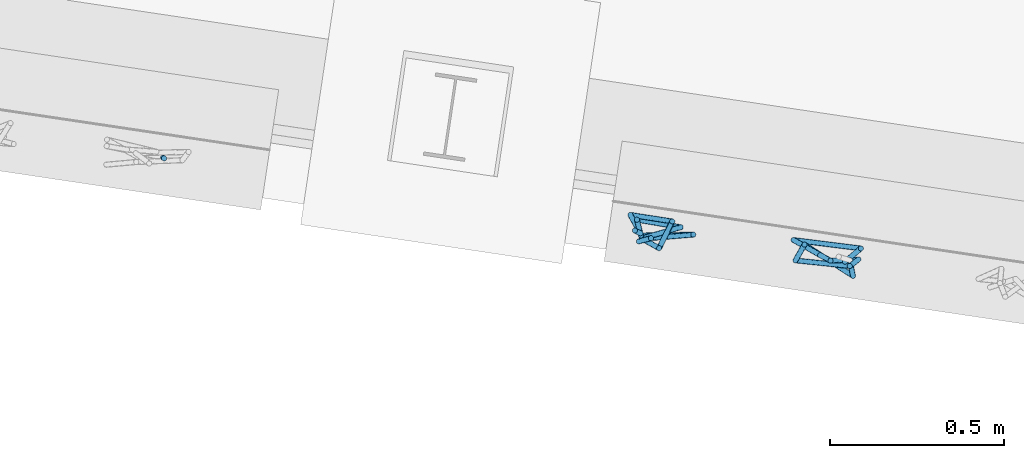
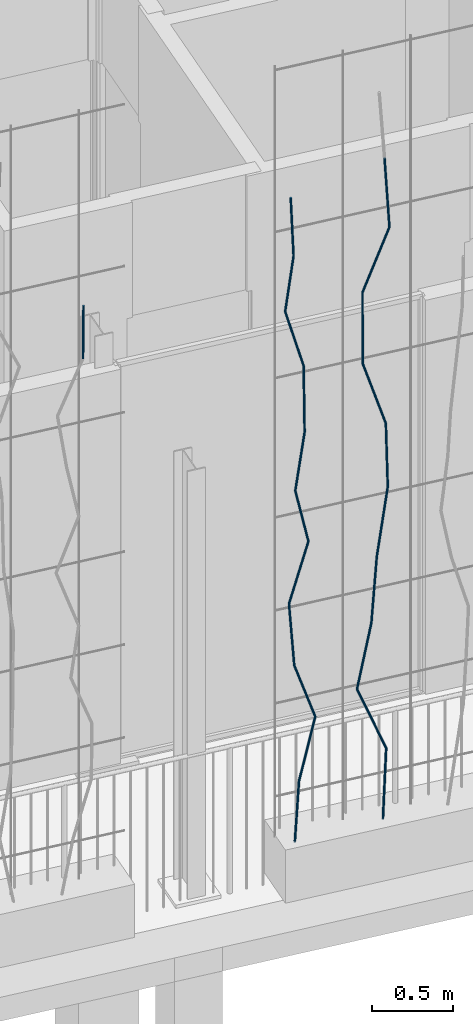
# One storey, part 118 of 143: 22 members, 1 element without a shape of its own.
"""IFC4 building model written with IfcOpenShell, lengths in metres."""

import ifcopenshell
import ifcopenshell.guid

model = None  # the IFC model being written
_history = None  # IfcOwnerHistory: only IFC2X3 demands one
_inside = {}  # id of a spatial element -> (the spatial element, [elements in it])
_under = {}  # id of a project, library or spatial element -> (it, [spatial elements below it])
_declared = {}  # id of a project -> (the project, [libraries it declares])
_typed = {}  # id of a type object -> (the type object, [elements of that type])
_made_of = {}  # id of a material, layer set ... -> (it, [elements and type objects made of it])


def new_model(schema):
    """Start an empty IFC model of exactly this schema.

    Asked for "IFC4X3", IfcOpenShell would pick the latest addendum, in which some entities
    have other attributes; the version numbers below select the first issue.
    IFC2X3 requires an IfcOwnerHistory on every rooted entity: one is made here for all.
    """
    global model, _history
    if schema == "IFC4X3":
        model = ifcopenshell.file(schema_version=(4, 3, 0, 0))
    else:
        model = ifcopenshell.file(schema=schema)
    _inside.clear()
    _under.clear()
    _declared.clear()
    _typed.clear()
    _made_of.clear()
    _history = None
    if model.schema == "IFC2X3":
        org = make("IfcOrganization", Name="unknown")
        user = make(
            "IfcPersonAndOrganization",
            ThePerson=make("IfcPerson", FamilyName="unknown"),
            TheOrganization=org,
        )
        app = make(
            "IfcApplication",
            ApplicationDeveloper=org,
            Version="unknown",
            ApplicationFullName="unknown",
            ApplicationIdentifier="unknown",
        )
        _history = make(
            "IfcOwnerHistory",
            OwningUser=user,
            OwningApplication=app,
            ChangeAction="ADDED",
            CreationDate=0,
        )
    return model


def make(cls, **values):
    """One entity of the class cls with the attributes given. An attribute that is None is left unset."""
    return model.create_entity(
        cls, **{name: value for name, value in values.items() if value is not None}
    )


def rooted(cls, **values):
    """An entity with a GlobalId (a new one), such as an element, a storey or a relation."""
    return make(cls, GlobalId=ifcopenshell.guid.new(), OwnerHistory=_history, **values)


def si_unit(unit_type, name, prefix=None):
    """IfcSIUnit, for example si_unit("LENGTHUNIT", "METRE", prefix="MILLI")."""
    return make("IfcSIUnit", UnitType=unit_type, Prefix=prefix, Name=name)


def assignment(units):
    """IfcUnitAssignment: the units of a project."""
    return None if units is None else make("IfcUnitAssignment", Units=units)


def point(xyz):
    """IfcCartesianPoint."""
    return None if xyz is None else make("IfcCartesianPoint", Coordinates=xyz)


def direction(xyz):
    """IfcDirection."""
    return None if xyz is None else make("IfcDirection", DirectionRatios=xyz)


def frame(location, z_axis=None, x_axis=None):
    """IfcAxis2Placement3D, a coordinate frame: its origin and axes. An axis left out is left unset."""
    return make(
        "IfcAxis2Placement3D",
        Location=point(location),
        Axis=direction(z_axis),
        RefDirection=direction(x_axis),
    )


def origin_with_axes():
    """The frame at (0, 0, 0) with the z axis (0, 0, 1) and the x axis (1, 0, 0) written out."""
    return frame((0.0, 0.0, 0.0), z_axis=(0.0, 0.0, 1.0), x_axis=(1.0, 0.0, 0.0))


def place(relative_to, where):
    """IfcLocalPlacement: puts the frame where relative to a parent placement (None: the world)."""
    return make(
        "IfcLocalPlacement", PlacementRelTo=relative_to, RelativePlacement=where
    )


def context(
    kind, dimensions, precision=None, world=None, true_north=None, identifier=None
):
    """IfcGeometricRepresentationContext, for example the 3D "Model" context."""
    return make(
        "IfcGeometricRepresentationContext",
        ContextIdentifier=identifier,
        ContextType=kind,
        CoordinateSpaceDimension=dimensions,
        Precision=precision,
        WorldCoordinateSystem=world,
        TrueNorth=true_north,
    )


def subcontext(parent, identifier, kind, view, scale=None):
    """IfcGeometricRepresentationSubContext, for example "Body" below "Model"."""
    return make(
        "IfcGeometricRepresentationSubContext",
        ContextIdentifier=identifier,
        ContextType=kind,
        ParentContext=parent,
        TargetScale=scale,
        TargetView=view,
    )


def project(units=None, contexts=None):
    """IfcProject with its units and contexts."""
    return rooted(
        "IfcProject",
        Name="project",
        RepresentationContexts=contexts,
        UnitsInContext=assignment(units),
    )


def spatial(cls, under=None, at=None, **own):
    """A site, building, storey or space (cls), placed at a placement, below another one or the project."""
    s = rooted(cls, ObjectPlacement=at, **own)
    if under is not None:
        _under.setdefault(under.id(), (under, []))[1].append(s)
    return s


def profile(cls, at=None, kind="AREA", **sizes):
    """A parametric profile (cls). Its sizes go by their IFC names, for example OverallWidth=200.0."""
    return make(cls, ProfileType=kind, Position=at, **sizes)


def circle(**sizes):
    """IfcCircleProfileDef."""
    return profile("IfcCircleProfileDef", **sizes)


def extrude(swept, where, along, depth):
    """IfcExtrudedAreaSolid: the profile swept, set in the frame where, extruded along a direction by depth."""
    return make(
        "IfcExtrudedAreaSolid",
        SweptArea=swept,
        Position=where,
        ExtrudedDirection=direction(along),
        Depth=depth,
    )


def shape(context_of_items, identifier, shape_type, items):
    """IfcShapeRepresentation: the items that make up one representation, for example the "Body"."""
    return make(
        "IfcShapeRepresentation",
        ContextOfItems=context_of_items,
        RepresentationIdentifier=identifier,
        RepresentationType=shape_type,
        Items=items,
    )


def material(Name=None, Category=None):
    """IfcMaterial."""
    return make("IfcMaterial", Name=Name, Category=Category)


def material_profile(
    of_material, cross_section, Name=None, Category=None, Priority=None
):
    """IfcMaterialProfile: a cross section and its material."""
    return make(
        "IfcMaterialProfile",
        Name=Name,
        Material=of_material,
        Profile=cross_section,
        Priority=Priority,
        Category=Category,
    )


def profile_set(profiles, Name=None, composite=None):
    """IfcMaterialProfileSet."""
    return make(
        "IfcMaterialProfileSet",
        Name=Name,
        MaterialProfiles=profiles,
        CompositeProfile=composite,
    )


def profile_usage(for_profile_set, cardinal=None, extent=None):
    """IfcMaterialProfileSetUsage: how a profile set lies along its element."""
    return make(
        "IfcMaterialProfileSetUsage",
        ForProfileSet=for_profile_set,
        CardinalPoint=cardinal,
        ReferenceExtent=extent,
    )


def made_of(thing, what):
    """Note that an element or type object is made of a material, layer set ...; save() writes the relation."""
    if what is not None:
        _made_of.setdefault(what.id(), (what, []))[1].append(thing)
    return thing


def type_object(cls, material=None, **own):
    """A type object (cls), such as IfcWallType, which elements share."""
    return made_of(rooted(cls, **own), material)


def element(
    cls,
    number,
    at=None,
    inside=None,
    cuts=None,
    type_object=None,
    material=None,
    context=None,
    identifier="Body",
    shape_type=None,
    held_by="IfcProductDefinitionShape",
    body=None,
    shapes=None,
    **own,
):
    """One element of the class cls, such as IfcWall. Its Tag is "e" and its number.

    at: its placement. inside: the storey or other place that contains it. cuts: it is an
    opening in that element (IfcRelVoidsElement). A single representation is given by context,
    identifier, shape_type and body (its items); several are given by shapes. held_by: the class
    of the entity that holds the representations. save() writes the other relations.
    """
    e = rooted(cls, Tag="e%d" % number, ObjectPlacement=at, **own)
    if body is not None:
        shapes = [shape(context, identifier, shape_type, body)]
    if shapes is not None:
        e.Representation = make(held_by, Representations=shapes)
    if inside is not None:
        _inside.setdefault(inside.id(), (inside, []))[1].append(e)
    if cuts is not None:
        rooted(
            "IfcRelVoidsElement", RelatingBuildingElement=cuts, RelatedOpeningElement=e
        )
    if type_object is not None:
        _typed.setdefault(type_object.id(), (type_object, []))[1].append(e)
    return made_of(e, material)


def aggregate(whole, parts):
    """IfcRelAggregates: a whole, such as a stair, and the parts it consists of."""
    return rooted("IfcRelAggregates", RelatingObject=whole, RelatedObjects=parts)


def save(model, path):
    """Write the relations noted so far, then the file.

    IfcRelAggregates (storeys below a building ...), IfcRelContainedInSpatialStructure (elements
    in a storey), IfcRelDefinesByType, IfcRelAssociatesMaterial and IfcRelDeclares: one each for
    every whole, place, type object, material and project.
    """
    for whole, parts in _under.values():
        aggregate(whole, parts)
    for where, things in _inside.values():
        rooted(
            "IfcRelContainedInSpatialStructure",
            RelatedElements=things,
            RelatingStructure=where,
        )
    for kind, things in _typed.values():
        rooted("IfcRelDefinesByType", RelatedObjects=things, RelatingType=kind)
    for what, things in _made_of.values():
        rooted("IfcRelAssociatesMaterial", RelatedObjects=things, RelatingMaterial=what)
    for by, libraries in _declared.values():
        rooted("IfcRelDeclares", RelatingContext=by, RelatedDefinitions=libraries)
    model.write(path)


model = new_model("IFC4")

# Units and contexts
model_context = context("Model", 3, precision=1e-05, world=origin_with_axes(), true_north=direction((0.0, 1.0)))
body_context = subcontext(model_context, "Body", "Model", "MODEL_VIEW")
ifc_project = project(units=[si_unit("VOLUMEUNIT", "CUBIC_METRE"), si_unit("LENGTHUNIT", "METRE"), si_unit("AREAUNIT", "SQUARE_METRE")], contexts=[model_context])

# Site, building, storey
site_placement = place(None, origin_with_axes())
site = spatial("IfcSite", under=ifc_project, at=site_placement, Name="Lares · Rua das Mercês · artigo 4771")
building_placement = place(site_placement, frame((15.0, 9.7, 15.8), z_axis=(0.0, 0.0, 1.0), x_axis=(0.989015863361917, -0.147809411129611, 0.0)))
building = spatial("IfcBuilding", under=site, at=building_placement, Name="Casa Sobreposta")
storey_placement = place(building_placement, origin_with_axes())
storey = spatial("IfcBuildingStorey", under=building, at=storey_placement, Name="00 · Habitação e estacionamento", Elevation=15.8)

# Assembly, members
assembly_placement = place(storey_placement, origin_with_axes())
assembly = element("IfcElementAssembly", 1, at=assembly_placement, inside=storey, Name="Fachada sul e pátio · estrutura e trepadeiras", ObjectType="LIVING_SHADE_TRELLIS", PredefinedType="USERDEFINED")
ifc_material = material(Name="Ramos de trepadeiras", Category="wood")
ifc_material_profile = material_profile(ifc_material, circle(Radius=0.0075))
ifc_profile_set = profile_set([ifc_material_profile], Name="D0.015")
ifc_profile_usage_1 = profile_usage(ifc_profile_set)
member_type = type_object("IfcMemberType", Name="D0.015 / vine_wood", PredefinedType="NOTDEFINED", material=ifc_profile_set)
member_1_placement = place(assembly_placement, frame((7.20002042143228, -1.67772191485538, 4.32719196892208), z_axis=(0.00748324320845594, -0.00300707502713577, 0.999967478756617), x_axis=(0.999972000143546, 2.25033038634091e-05, -0.00748320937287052)))
member_1 = element("IfcMember", 2, at=member_1_placement, type_object=member_type, material=ifc_profile_usage_1, Name="Trepadeiras · ramo", context=body_context, shape_type="SweptSolid", body=[
    extrude(circle(Radius=0.0075), origin_with_axes(), (0.0, 0.0, 1.0), 0.397732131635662),
])
ifc_profile_usage_2 = profile_usage(ifc_profile_set)
member_2_placement = place(assembly_placement, frame((8.59054246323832, -1.7135149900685, 0.35), z_axis=(0.074725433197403, 0.0323628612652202, 0.996678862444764), x_axis=(0.397419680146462, -0.917636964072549, 0.0)))
member_2 = element("IfcMember", 3, at=member_2_placement, type_object=member_type, material=ifc_profile_usage_2, Name="Trepadeiras · ramo", context=body_context, shape_type="SweptSolid", body=[
    extrude(circle(Radius=0.0075), origin_with_axes(), (0.0, 0.0, 1.0), 0.441355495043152),
])
ifc_profile_usage_3 = profile_usage(ifc_profile_set)
member_3_placement = place(assembly_placement, frame((8.62352294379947, -1.69923146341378, 0.789889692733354), z_axis=(0.260931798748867, 0.0614456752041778, 0.963399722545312), x_axis=(0.22921591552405, -0.973375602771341, 0.0)))
member_3 = element("IfcMember", 4, at=member_3_placement, type_object=member_type, material=ifc_profile_usage_3, Name="Trepadeiras · ramo", context=body_context, shape_type="SweptSolid", body=[
    extrude(circle(Radius=0.0075), origin_with_axes(), (0.0, 0.0, 1.0), 0.456601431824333),
])
ifc_profile_usage_4 = profile_usage(ifc_profile_set)
member_4_placement = place(assembly_placement, frame((8.7426647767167, -1.67117528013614, 1.22977938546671), z_axis=(-0.320146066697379, -0.0527548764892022, 0.945898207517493), x_axis=(-0.162591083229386, 0.986693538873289, 0.0)))
member_4 = element("IfcMember", 5, at=member_4_placement, type_object=member_type, material=ifc_profile_usage_4, Name="Trepadeiras · ramo", context=body_context, shape_type="SweptSolid", body=[
    extrude(circle(Radius=0.0075), origin_with_axes(), (0.0, 0.0, 1.0), 0.465049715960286),
])
ifc_profile_usage_5 = profile_usage(ifc_profile_set)
member_5_placement = place(assembly_placement, frame((8.59378093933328, -1.69570892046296, 1.66966907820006), z_axis=(-0.0407011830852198, 0.0974124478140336, 0.994411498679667), x_axis=(0.922697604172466, 0.385524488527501, 0.0)))
member_5 = element("IfcMember", 6, at=member_5_placement, type_object=member_type, material=ifc_profile_usage_5, Name="Trepadeiras · ramo", context=body_context, shape_type="SweptSolid", body=[
    extrude(circle(Radius=0.0075), origin_with_axes(), (0.0, 0.0, 1.0), 0.442361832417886),
])
ifc_profile_usage_6 = profile_usage(ifc_profile_set)
member_6_placement = place(assembly_placement, frame((8.57577628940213, -1.65261737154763, 2.10955877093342), z_axis=(0.279160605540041, -0.00602327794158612, 0.960225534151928), x_axis=(-0.0215713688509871, -0.999767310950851, 0.0)))
member_6 = element("IfcMember", 7, at=member_6_placement, type_object=member_type, material=ifc_profile_usage_6, Name="Trepadeiras · ramo", context=body_context, shape_type="SweptSolid", body=[
    extrude(circle(Radius=0.0075), origin_with_axes(), (0.0, 0.0, 1.0), 0.458110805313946),
])
ifc_profile_usage_7 = profile_usage(ifc_profile_set)
member_7_placement = place(assembly_placement, frame((8.70366277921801, -1.65537670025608, 2.54944846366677), z_axis=(-0.233601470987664, -0.106950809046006, 0.966432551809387), x_axis=(-0.416279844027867, 0.90923654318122, 0.0)))
member_7 = element("IfcMember", 8, at=member_7_placement, type_object=member_type, material=ifc_profile_usage_7, Name="Trepadeiras · ramo", context=body_context, shape_type="SweptSolid", body=[
    extrude(circle(Radius=0.0075), origin_with_axes(), (0.0, 0.0, 1.0), 0.455168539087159),
])
ifc_profile_usage_8 = profile_usage(ifc_profile_set)
member_8_placement = place(assembly_placement, frame((8.59733473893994, -1.70405734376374, 2.98933815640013), z_axis=(0.121360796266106, -0.0456594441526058, 0.991557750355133), x_axis=(-0.352131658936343, -0.93595047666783, 0.0)))
member_8 = element("IfcMember", 9, at=member_8_placement, type_object=member_type, material=ifc_profile_usage_8, Name="Trepadeiras · ramo", context=body_context, shape_type="SweptSolid", body=[
    extrude(circle(Radius=0.0075), origin_with_axes(), (0.0, 0.0, 1.0), 0.443634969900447),
])
ifc_profile_usage_9 = profile_usage(ifc_profile_set)
member_9_placement = place(assembly_placement, frame((8.65117463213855, -1.72431346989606, 3.42922784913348), z_axis=(0.0577712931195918, 0.182961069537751, 0.981421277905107), x_axis=(0.953591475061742, -0.301103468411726, 0.0)))
member_9 = element("IfcMember", 10, at=member_9_placement, type_object=member_type, material=ifc_profile_usage_9, Name="Trepadeiras · ramo", context=body_context, shape_type="SweptSolid", body=[
    extrude(circle(Radius=0.0075), origin_with_axes(), (0.0, 0.0, 1.0), 0.448216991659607),
])
ifc_profile_usage_10 = profile_usage(ifc_profile_set)
member_10_placement = place(assembly_placement, frame((8.6770687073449, -1.64230720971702, 3.86911754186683), z_axis=(-0.26759400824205, 0.00154657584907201, 0.96353051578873), x_axis=(0.00577946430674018, 0.999983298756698, 0.0)))
member_10 = element("IfcMember", 11, at=member_10_placement, type_object=member_type, material=ifc_profile_usage_10, Name="Trepadeiras · ramo", context=body_context, shape_type="SweptSolid", body=[
    extrude(circle(Radius=0.0075), origin_with_axes(), (0.0, 0.0, 1.0), 0.456539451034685),
])
ifc_profile_usage_11 = profile_usage(ifc_profile_set)
member_11_placement = place(assembly_placement, frame((8.5549014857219, -1.6416011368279, 4.30900723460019), z_axis=(0.0826915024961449, -0.10823453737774, 0.990680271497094), x_axis=(-0.794627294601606, -0.607097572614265, 0.0)))
member_11 = element("IfcMember", 12, at=member_11_placement, type_object=member_type, material=ifc_profile_usage_11, Name="Trepadeiras · ramo", context=body_context, shape_type="SweptSolid", body=[
    extrude(circle(Radius=0.0075), origin_with_axes(), (0.0, 0.0, 1.0), 0.444027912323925),
])
ifc_profile_usage_12 = profile_usage(ifc_profile_set)
member_12_placement = place(assembly_placement, frame((8.59161882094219, -1.68966029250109, 4.74889692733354), z_axis=(-0.0384160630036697, 0.0118576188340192, 0.999191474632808), x_axis=(0.999261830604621, 0.000455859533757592, 0.0384133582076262)))
member_12 = element("IfcMember", 13, at=member_12_placement, type_object=member_type, material=ifc_profile_usage_12, Name="Trepadeiras · ramo", context=body_context, shape_type="SweptSolid", body=[
    extrude(circle(Radius=0.0075), origin_with_axes(), (0.0, 0.0, 1.0), 0.440245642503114),
])
ifc_profile_usage_13 = profile_usage(ifc_profile_set)
member_13_placement = place(assembly_placement, frame((9.18640022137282, -1.68378506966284, 0.35), z_axis=(0.0784694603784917, 0.0892745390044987, 0.992911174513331), x_axis=(0.751097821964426, -0.660190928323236, 0.0)))
member_13 = element("IfcMember", 14, at=member_13_placement, type_object=member_type, material=ifc_profile_usage_13, Name="Trepadeiras · ramo", context=body_context, shape_type="SweptSolid", body=[
    extrude(circle(Radius=0.0075), origin_with_axes(), (0.0, 0.0, 1.0), 0.501089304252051),
])
ifc_profile_usage_14 = profile_usage(ifc_profile_set)
member_14_placement = place(assembly_placement, frame((9.22572042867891, -1.63905055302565, 0.847537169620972), z_axis=(-0.36542380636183, -0.00871687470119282, 0.930800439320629), x_axis=(-0.0238473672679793, 0.999715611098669, 0.0)))
member_14 = element("IfcMember", 15, at=member_14_placement, type_object=member_type, material=ifc_profile_usage_14, Name="Trepadeiras · ramo", context=body_context, shape_type="SweptSolid", body=[
    extrude(circle(Radius=0.0075), origin_with_axes(), (0.0, 0.0, 1.0), 0.534526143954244),
])
ifc_profile_usage_15 = profile_usage(ifc_profile_set)
member_15_placement = place(assembly_placement, frame((9.03039185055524, -1.64370995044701, 1.34507433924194), z_axis=(0.163392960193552, -0.0633863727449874, 0.984522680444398), x_axis=(-0.361676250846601, -0.932303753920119, 0.0)))
member_15 = element("IfcMember", 16, at=member_15_placement, type_object=member_type, material=ifc_profile_usage_15, Name="Trepadeiras · ramo", context=body_context, shape_type="SweptSolid", body=[
    extrude(circle(Radius=0.0075), origin_with_axes(), (0.0, 0.0, 1.0), 0.505358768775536),
])
ifc_profile_usage_16 = profile_usage(ifc_profile_set)
member_16_placement = place(assembly_placement, frame((9.11296391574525, -1.67574280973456, 1.84261150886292), z_axis=(0.0632140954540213, -0.0219950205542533, 0.997757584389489), x_axis=(-0.328620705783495, -0.944461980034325, 0.0)))
member_16 = element("IfcMember", 17, at=member_16_placement, type_object=member_type, material=ifc_profile_usage_16, Name="Trepadeiras · ramo", context=body_context, shape_type="SweptSolid", body=[
    extrude(circle(Radius=0.0075), origin_with_axes(), (0.0, 0.0, 1.0), 0.49865536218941),
])
ifc_profile_usage_17 = profile_usage(ifc_profile_set)
member_17_placement = place(assembly_placement, frame((9.14448596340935, -1.68671074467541, 2.34014867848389), z_axis=(0.156733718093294, 0.030272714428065, 0.987176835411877), x_axis=(0.189642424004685, -0.981853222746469, 0.0)))
member_17 = element("IfcMember", 18, at=member_17_placement, type_object=member_type, material=ifc_profile_usage_17, Name="Trepadeiras · ramo", context=body_context, shape_type="SweptSolid", body=[
    extrude(circle(Radius=0.0075), origin_with_axes(), (0.0, 0.0, 1.0), 0.504000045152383),
])
ifc_profile_usage_18 = profile_usage(ifc_profile_set)
member_18_placement = place(assembly_placement, frame((9.22347976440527, -1.67145329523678, 2.83768584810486), z_axis=(-0.043628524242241, -0.0455250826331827, 0.998010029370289), x_axis=(-0.721985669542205, 0.691908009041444, 0.0)))
member_18 = element("IfcMember", 19, at=member_18_placement, type_object=member_type, material=ifc_profile_usage_18, Name="Trepadeiras · ramo", context=body_context, shape_type="SweptSolid", body=[
    extrude(circle(Radius=0.0075), origin_with_axes(), (0.0, 0.0, 1.0), 0.498529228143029),
])
ifc_profile_usage_19 = profile_usage(ifc_profile_set)
member_19_placement = place(assembly_placement, frame((9.20172966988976, -1.69414887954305, 3.33522301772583), z_axis=(-0.300800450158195, -0.0131721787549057, 0.95359613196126), x_axis=(-0.0437484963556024, 0.999042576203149, 0.0)))
member_19 = element("IfcMember", 20, at=member_19_placement, type_object=member_type, material=ifc_profile_usage_19, Name="Trepadeiras · ramo", context=body_context, shape_type="SweptSolid", body=[
    extrude(circle(Radius=0.0075), origin_with_axes(), (0.0, 0.0, 1.0), 0.521748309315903),
])
ifc_profile_usage_20 = profile_usage(ifc_profile_set)
member_20_placement = place(assembly_placement, frame((9.04478754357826, -1.70102144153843, 3.8327601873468), z_axis=(0.0376984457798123, 0.0974391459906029, 0.994527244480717), x_axis=(0.932632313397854, -0.360828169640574, 0.0)))
member_20 = element("IfcMember", 21, at=member_20_placement, type_object=member_type, material=ifc_profile_usage_20, Name="Trepadeiras · ramo", context=body_context, shape_type="SweptSolid", body=[
    extrude(circle(Radius=0.0075), origin_with_axes(), (0.0, 0.0, 1.0), 0.500275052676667),
])
ifc_profile_usage_21 = profile_usage(ifc_profile_set)
member_21_placement = place(assembly_placement, frame((9.06364713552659, -1.65227506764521, 4.33029735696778), z_axis=(0.288810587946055, -0.130428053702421, 0.94846031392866), x_axis=(-0.411580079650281, -0.911373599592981, 0.0)))
member_21 = element("IfcMember", 22, at=member_21_placement, type_object=member_type, material=ifc_profile_usage_21, Name="Trepadeiras · ramo", context=body_context, shape_type="SweptSolid", body=[
    extrude(circle(Radius=0.0075), origin_with_axes(), (0.0, 0.0, 1.0), 0.524573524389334),
])
ifc_profile_usage_22 = profile_usage(ifc_profile_set)
member_22_placement = place(assembly_placement, frame((9.2151495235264, -1.72069417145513, 4.82783452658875), z_axis=(-0.0315166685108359, 0.0862322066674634, 0.995776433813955), x_axis=(0.939234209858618, 0.343277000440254, 4.70366638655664e-18)))
member_22 = element("IfcMember", 23, at=member_22_placement, type_object=member_type, material=ifc_profile_usage_22, Name="Trepadeiras · ramo", context=body_context, shape_type="SweptSolid", body=[
    extrude(circle(Radius=0.0075), origin_with_axes(), (0.0, 0.0, 1.0), 0.499647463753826),
])
aggregate(assembly, [member_1, member_2, member_3, member_4, member_5, member_6, member_7, member_8, member_9, member_10, member_11, member_12, member_13, member_14, member_15, member_16, member_17, member_18, member_19, member_20, member_21, member_22])

save(model, "model.ifc")
